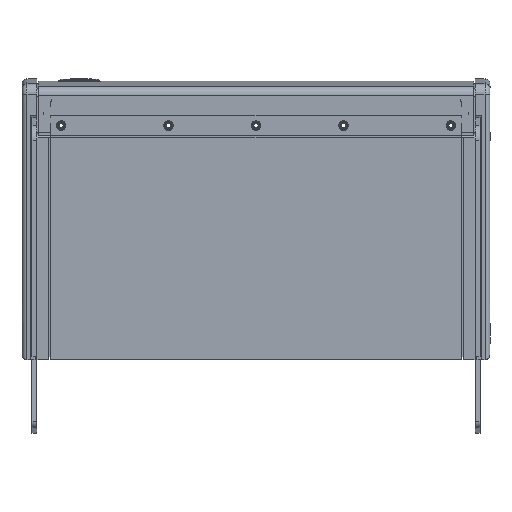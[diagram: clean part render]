
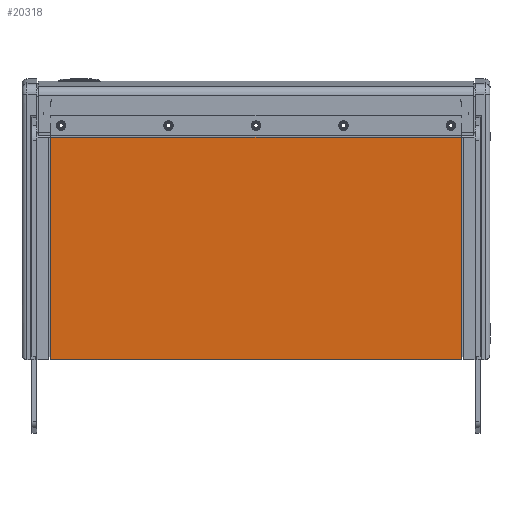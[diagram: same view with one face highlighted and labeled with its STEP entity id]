
A CAD part, front view. The second image highlights one B-rep face of the part: STEP entity #20318.
In plain terms, the highlighted planar face has unit normal (0, -0.999, -0.052) as drawn and (0, 0, -1) by its records, which use the part's own axes.
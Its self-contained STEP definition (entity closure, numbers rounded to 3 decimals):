
#418 = ORIENTED_EDGE ( 'NONE', *, *, #15262, .F. ) ;
#1109 = DIRECTION ( 'NONE',  ( 1., 0., 0. ) ) ;
#2406 = DIRECTION ( 'NONE',  ( 0., -1., 0. ) ) ;
#2946 = VECTOR ( 'NONE', #1109, 1000. ) ;
#5327 = VECTOR ( 'NONE', #18531, 1000. ) ;
#5468 = CARTESIAN_POINT ( 'NONE',  ( 129.329, -261.874, -18.288 ) ) ;
#6538 = FACE_OUTER_BOUND ( 'NONE', #23558, .T. ) ;
#6661 = EDGE_CURVE ( 'NONE', #26007, #8964, #30289, .T. ) ;
#6968 = CARTESIAN_POINT ( 'NONE',  ( -154.516, 261.874, -18.288 ) ) ;
#8467 = VERTEX_POINT ( 'NONE', #5468 ) ;
#8964 = VERTEX_POINT ( 'NONE', #15148 ) ;
#9244 = PLANE ( 'NONE',  #18100 ) ;
#13131 = CARTESIAN_POINT ( 'NONE',  ( -154.516, 270.256, -18.288 ) ) ;
#14178 = CARTESIAN_POINT ( 'NONE',  ( 129.329, 270.256, -18.288 ) ) ;
#14494 = LINE ( 'NONE', #19436, #31333 ) ;
#14613 = DIRECTION ( 'NONE',  ( 1., 0., 0. ) ) ;
#15148 = CARTESIAN_POINT ( 'NONE',  ( -154.516, -261.874, -18.288 ) ) ;
#15262 = EDGE_CURVE ( 'NONE', #8964, #8467, #30363, .T. ) ;
#17961 = ORIENTED_EDGE ( 'NONE', *, *, #17993, .T. ) ;
#17993 = EDGE_CURVE ( 'NONE', #26007, #29626, #23838, .T. ) ;
#18100 = AXIS2_PLACEMENT_3D ( 'NONE', #14178, #21355, #25784 ) ;
#18452 = CARTESIAN_POINT ( 'NONE',  ( -154.516, -261.874, -18.288 ) ) ;
#18531 = DIRECTION ( 'NONE',  ( 0., -1., 0. ) ) ;
#19436 = CARTESIAN_POINT ( 'NONE',  ( 129.329, 270.256, -18.288 ) ) ;
#20318 = ADVANCED_FACE ( 'NONE', ( #6538 ), #9244, .F. ) ;
#20361 = ORIENTED_EDGE ( 'NONE', *, *, #20533, .T. ) ;
#20533 = EDGE_CURVE ( 'NONE', #29626, #8467, #14494, .T. ) ;
#20813 = ORIENTED_EDGE ( 'NONE', *, *, #6661, .F. ) ;
#21355 = DIRECTION ( 'NONE',  ( 0., 0., 1. ) ) ;
#23558 = EDGE_LOOP ( 'NONE', ( #17961, #20361, #418, #20813 ) ) ;
#23838 = LINE ( 'NONE', #6968, #31467 ) ;
#25660 = CARTESIAN_POINT ( 'NONE',  ( -154.516, 261.874, -18.288 ) ) ;
#25764 = CARTESIAN_POINT ( 'NONE',  ( 129.329, 261.874, -18.288 ) ) ;
#25784 = DIRECTION ( 'NONE',  ( 1., 0., 0. ) ) ;
#26007 = VERTEX_POINT ( 'NONE', #25660 ) ;
#29626 = VERTEX_POINT ( 'NONE', #25764 ) ;
#30289 = LINE ( 'NONE', #13131, #5327 ) ;
#30363 = LINE ( 'NONE', #18452, #2946 ) ;
#31333 = VECTOR ( 'NONE', #2406, 1000. ) ;
#31467 = VECTOR ( 'NONE', #14613, 1000. ) ;
